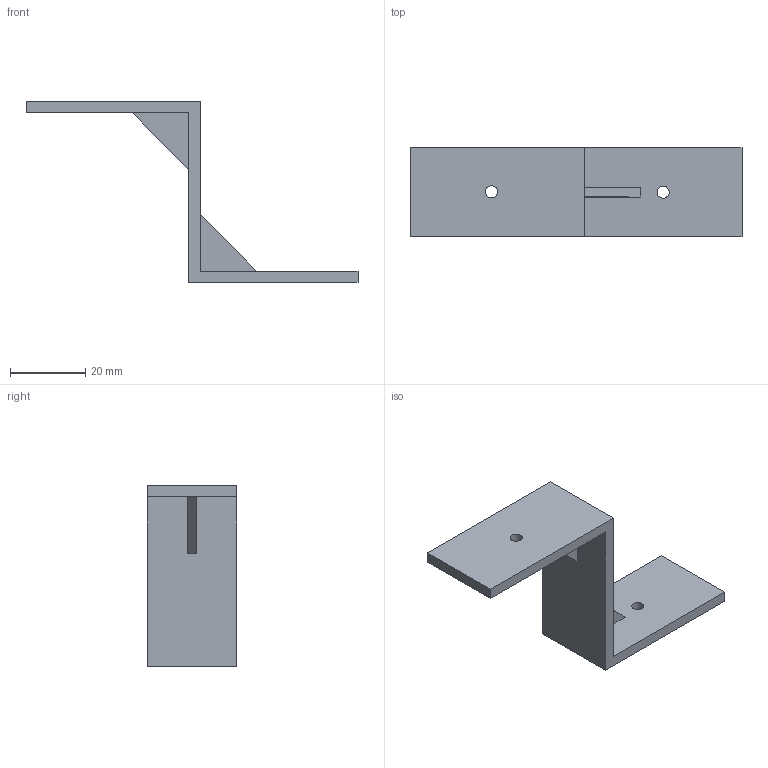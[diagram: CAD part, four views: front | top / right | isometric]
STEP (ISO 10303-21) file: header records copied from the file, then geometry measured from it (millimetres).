
FILE_DESCRIPTION(('Mechanical CAD reference from nasji.com'),'2;1');
FILE_NAME('NASJI.step','',(''),(''),'','NASJI distribution','');
FILE_SCHEMA(('AUTOMOTIVE_DESIGN { 1 0 10303 214 1 1 1 1 }'));
Length unit declared in the file: millimetre
Products named in the file (1): Open CASCADE STEP translator 7.8 129
Bounding box: 88.4 x 23.73 x 48.1 mm (x, y, z)
Volume: 10040.6 mm3; surface area: 7711.7 mm2
Topology: 1 solids, 1 shells, 18 faces, 48 edges, 32 vertices
Faces by surface type: plane 16, cylinder 2
Full cylindrical faces by diameter (mm): 3.2 x2
Entity records: 1204 total; most frequent: CARTESIAN_POINT 225, DIRECTION 176, LINE 130, VECTOR 130, ORIENTED_EDGE 96, PCURVE 96, DEFINITIONAL_REPRESENTATION 96, EDGE_CURVE 48
